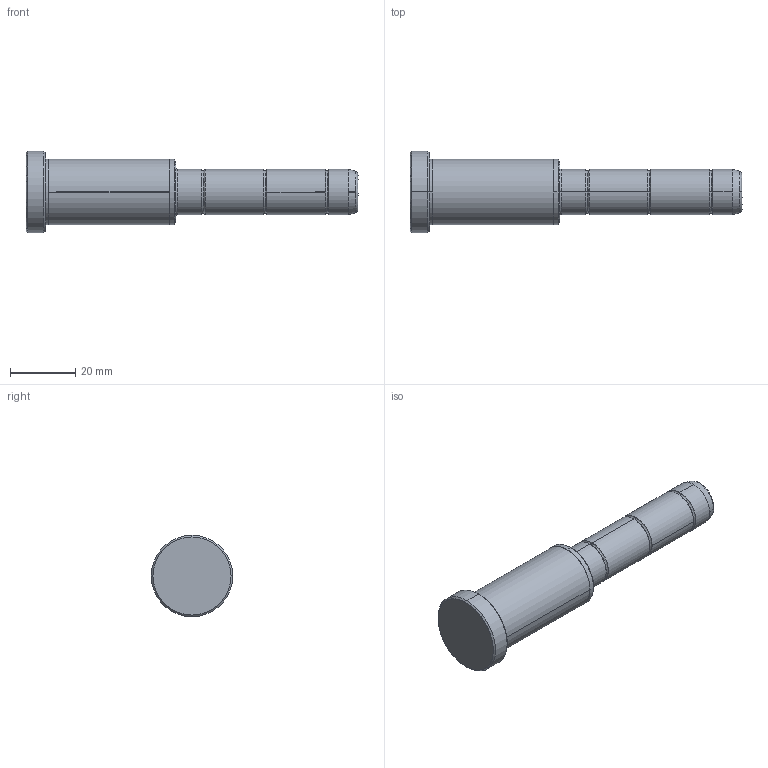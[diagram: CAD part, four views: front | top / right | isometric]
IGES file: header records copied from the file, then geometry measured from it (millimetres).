
Start section: SolidWorks IGES file using analytic representation for surfaces
Global section: file name: C:\Users\Dell\Desktop\deltakont\kontrol edilecekler\D02\Ø14\D02_14x46x56.IGS; native system: SolidWorks 2010; preprocessor: SolidWorks 2010; author: Dell; date: 111225.225825; units: millimetre
Bounding box: 102 x 25 x 25 mm (x, y, z)
Surface area: 6378.5 mm2 (no closed solid volume)
Topology: 0 solids, 0 shells, 48 faces, 504 edges, 504 vertices
Faces by surface type: revolution 26, bspline 22
